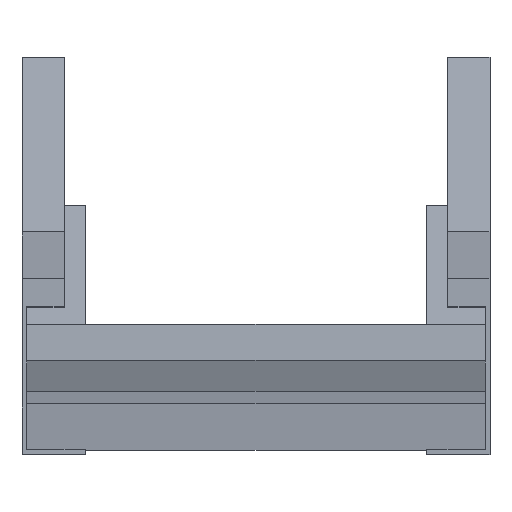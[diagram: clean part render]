
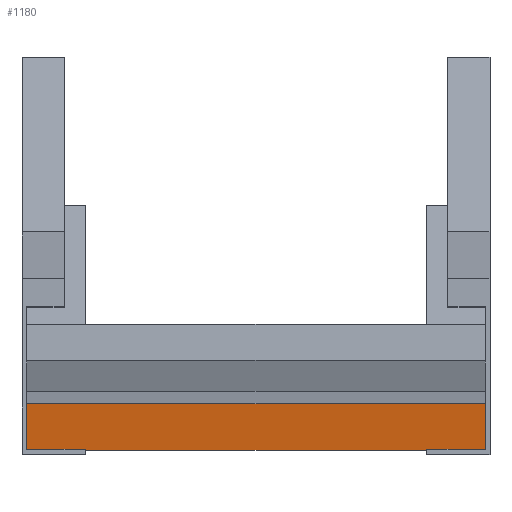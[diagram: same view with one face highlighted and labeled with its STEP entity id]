
A CAD part, top view. The second image highlights one B-rep face of the part: STEP entity #1180.
In plain terms, the highlighted planar face has unit normal (0, -0.131, 0.991) as drawn and (0, 0, 1) by its records, which use the part's own axes.
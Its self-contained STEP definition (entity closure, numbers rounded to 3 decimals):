
#2 = EDGE_CURVE ( 'NONE', #84, #209, #252, .T. ) ;
#37 = DIRECTION ( 'NONE',  ( 0., -1., 0. ) ) ;
#84 = VERTEX_POINT ( 'NONE', #1445 ) ;
#85 = DIRECTION ( 'NONE',  ( -1., 0., 0. ) ) ;
#137 = DIRECTION ( 'NONE',  ( 0., -1., 0. ) ) ;
#153 = DIRECTION ( 'NONE',  ( -1., 0., 0. ) ) ;
#209 = VERTEX_POINT ( 'NONE', #686 ) ;
#252 = LINE ( 'NONE', #1425, #1488 ) ;
#254 = VECTOR ( 'NONE', #37, 1000. ) ;
#430 = EDGE_CURVE ( 'NONE', #84, #690, #710, .T. ) ;
#474 = DIRECTION ( 'NONE',  ( 0., 1., 0. ) ) ;
#548 = CARTESIAN_POINT ( 'NONE',  ( 98., 0., 20.25 ) ) ;
#587 = ORIENTED_EDGE ( 'NONE', *, *, #804, .T. ) ;
#603 = CARTESIAN_POINT ( 'NONE',  ( 98., 20., 20.25 ) ) ;
#608 = FACE_OUTER_BOUND ( 'NONE', #695, .T. ) ;
#686 = CARTESIAN_POINT ( 'NONE',  ( -98., 20., 20.25 ) ) ;
#690 = VERTEX_POINT ( 'NONE', #548 ) ;
#695 = EDGE_LOOP ( 'NONE', ( #587, #958, #1057, #770 ) ) ;
#706 = DIRECTION ( 'NONE',  ( 0., 0., -1. ) ) ;
#710 = LINE ( 'NONE', #1189, #1102 ) ;
#770 = ORIENTED_EDGE ( 'NONE', *, *, #2, .T. ) ;
#804 = EDGE_CURVE ( 'NONE', #209, #1058, #1300, .T. ) ;
#905 = LINE ( 'NONE', #1012, #1349 ) ;
#943 = AXIS2_PLACEMENT_3D ( 'NONE', #603, #706, #474 ) ;
#958 = ORIENTED_EDGE ( 'NONE', *, *, #991, .F. ) ;
#991 = EDGE_CURVE ( 'NONE', #690, #1058, #905, .T. ) ;
#1012 = CARTESIAN_POINT ( 'NONE',  ( 98., 0., 20.25 ) ) ;
#1057 = ORIENTED_EDGE ( 'NONE', *, *, #430, .F. ) ;
#1058 = VERTEX_POINT ( 'NONE', #1492 ) ;
#1102 = VECTOR ( 'NONE', #137, 1000. ) ;
#1176 = PLANE ( 'NONE',  #943 ) ;
#1180 = ADVANCED_FACE ( 'NONE', ( #608 ), #1176, .F. ) ;
#1189 = CARTESIAN_POINT ( 'NONE',  ( 98., 20., 20.25 ) ) ;
#1196 = CARTESIAN_POINT ( 'NONE',  ( -98., 20., 20.25 ) ) ;
#1300 = LINE ( 'NONE', #1196, #254 ) ;
#1349 = VECTOR ( 'NONE', #85, 1000. ) ;
#1425 = CARTESIAN_POINT ( 'NONE',  ( 98., 20., 20.25 ) ) ;
#1445 = CARTESIAN_POINT ( 'NONE',  ( 98., 20., 20.25 ) ) ;
#1488 = VECTOR ( 'NONE', #153, 1000. ) ;
#1492 = CARTESIAN_POINT ( 'NONE',  ( -98., 0., 20.25 ) ) ;
